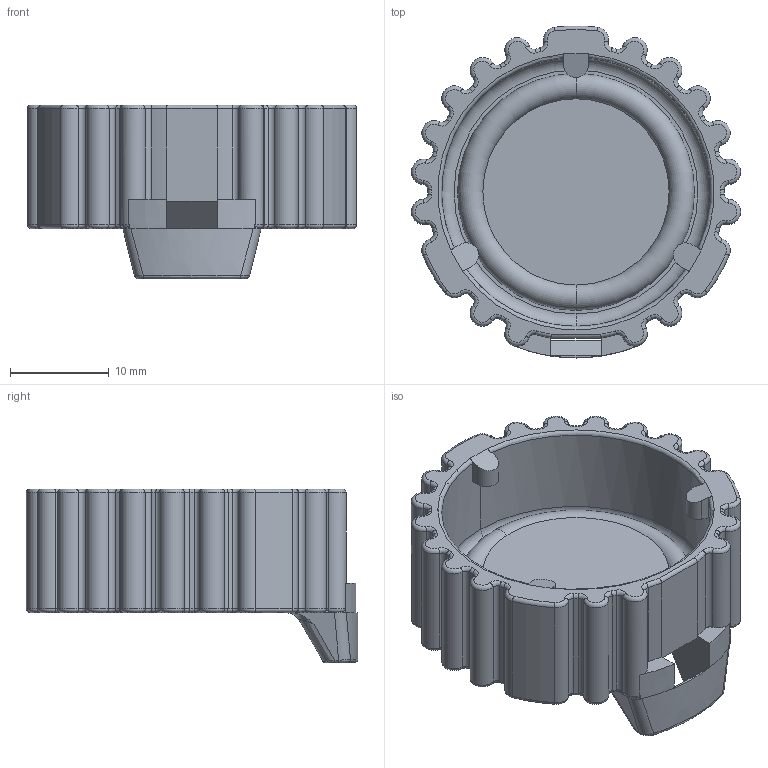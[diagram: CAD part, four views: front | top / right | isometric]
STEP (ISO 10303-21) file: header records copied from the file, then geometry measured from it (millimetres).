
FILE_DESCRIPTION((''),'2;1');
FILE_NAME('C-HDC16-5','2013-07-19T',('workeradm'),('Tyco Electronics Ltd.'),'PRO/ENGINEER BY PARAMETRIC TECHNOLOGY CORPORATION, 2011490','PRO/ENGINEER BY PARAMETRIC TECHNOLOGY CORPORATION, 2011490','');
FILE_SCHEMA(('AUTOMOTIVE_DESIGN { 1 0 10303 214 1 1 1 1 }'));
Length unit declared in the file: millimetre
Products named in the file (1): C-HDC16-5
Bounding box: 33.26 x 33.51 x 17.58 mm (x, y, z)
Volume: 4874.4 mm3; surface area: 5057 mm2
Topology: 1 solids, 2 shells, 345 faces, 811 edges, 470 vertices
Faces by surface type: torus 177, cylinder 104, plane 42, bspline 12, extrusion 4, cone 4, sphere 2
Entity records: 12580 total; most frequent: CARTESIAN_POINT 4070, DIRECTION 1981, ORIENTED_EDGE 1622, AXIS2_PLACEMENT_3D 891, EDGE_CURVE 811, CIRCLE 562, VERTEX_POINT 470, EDGE_LOOP 349
